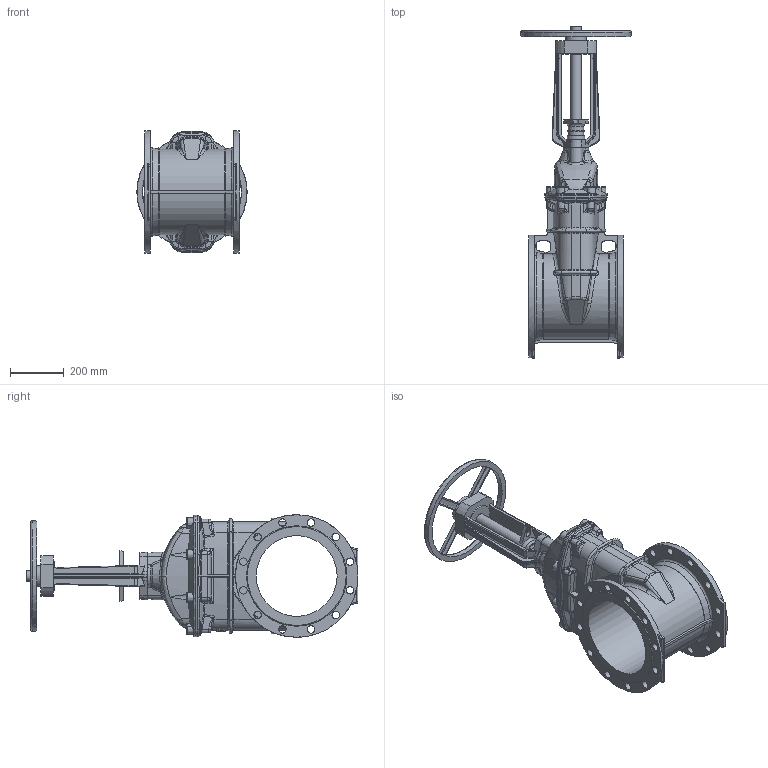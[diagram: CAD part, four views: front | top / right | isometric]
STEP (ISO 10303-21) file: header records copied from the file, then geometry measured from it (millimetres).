
FILE_DESCRIPTION (( 'STEP AP203' ), '1' );
FILE_NAME ('O_21_34_DN300_41XXXXX close_AA0.step', '2020-02-12T09:39:30', ( 'Windows User' ), ( 'AVK' ), 'SwSTEP 2.0', 'SolidWorks 2012', '' );
FILE_SCHEMA (( 'CONFIG_CONTROL_DESIGN' ));
Products named in the file (1): O_21_34_DN300_41XXXXX close_AA0
Bounding box: 409.98 x 1233.07 x 455 mm (x, y, z)
Volume: 34683841.5 mm3; surface area: 2041837 mm2
Topology: 1 solids, 1 shells, 1065 faces, 2718 edges, 1648 vertices
Faces by surface type: bspline 388, plane 232, cylinder 221, cone 140, torus 80, sphere 4
Full cylindrical faces by diameter (mm): 28 x24, 40 x2, 55.9 x1, 60 x1, 64 x1, 77 x1, 105 x2, 300 x1, 455 x2
Entity records: 49467 total; most frequent: CARTESIAN_POINT 27622, ORIENTED_EDGE 5230, DIRECTION 3640, EDGE_CURVE 2615, VERTEX_POINT 1609, AXIS2_PLACEMENT_3D 1489, EDGE_LOOP 1188, FACE_OUTER_BOUND 1104
